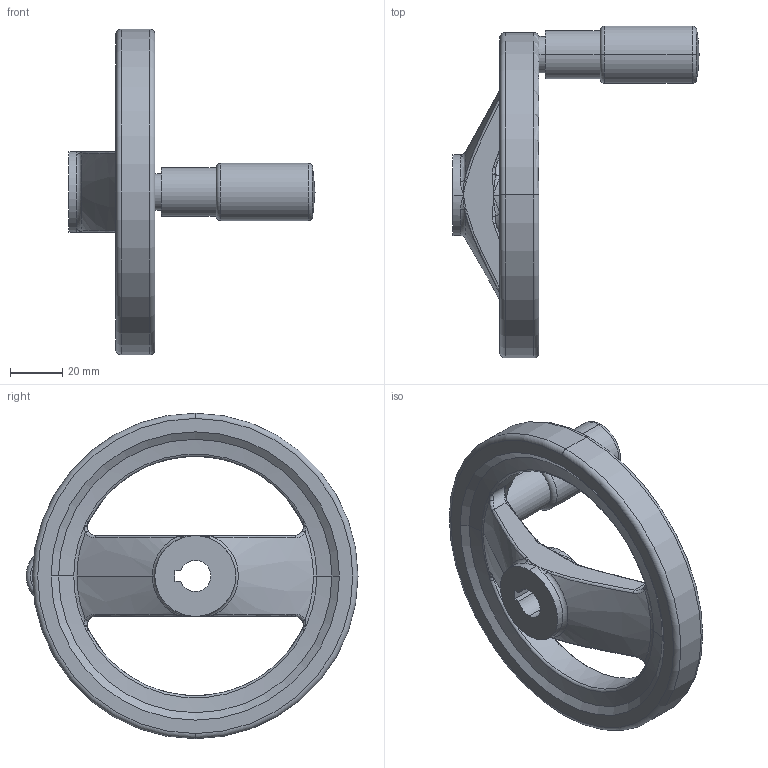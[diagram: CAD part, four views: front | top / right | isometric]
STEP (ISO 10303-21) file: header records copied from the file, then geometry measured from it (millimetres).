
FILE_DESCRIPTION (( 'STEP AP214' ), '1' );
FILE_NAME ('324-125-K12-R.step', '2020-05-15T12:50:37', ( '' ), ( '' ), 'SwSTEP 2.0', 'SolidWorks 2019', '' );
FILE_SCHEMA (( 'AUTOMOTIVE_DESIGN' ));
Length unit declared in the file: millimetre
Products named in the file (1): 324-125-K12-R
Bounding box: 94.5 x 127.5 x 125 mm (x, y, z)
Volume: 129276.4 mm3; surface area: 32287.1 mm2
Topology: 1 solids, 1 shells, 123 faces, 309 edges, 170 vertices
Faces by surface type: bspline 56, cylinder 23, torus 19, cone 12, plane 11, sphere 2
Entity records: 5489 total; most frequent: CARTESIAN_POINT 2895, ORIENTED_EDGE 586, DIRECTION 462, EDGE_CURVE 293, AXIS2_PLACEMENT_3D 209, VERTEX_POINT 170, CIRCLE 141, EDGE_LOOP 127
